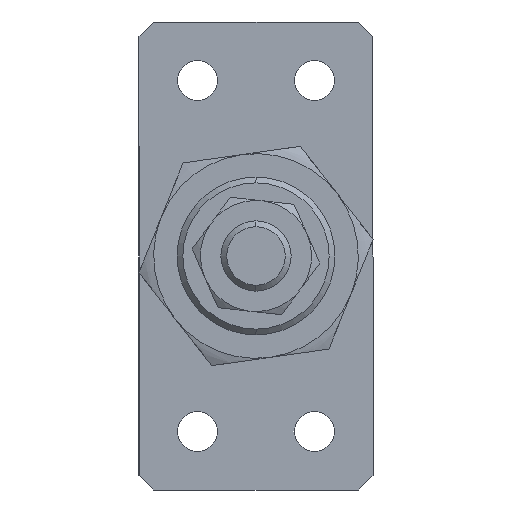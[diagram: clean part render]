
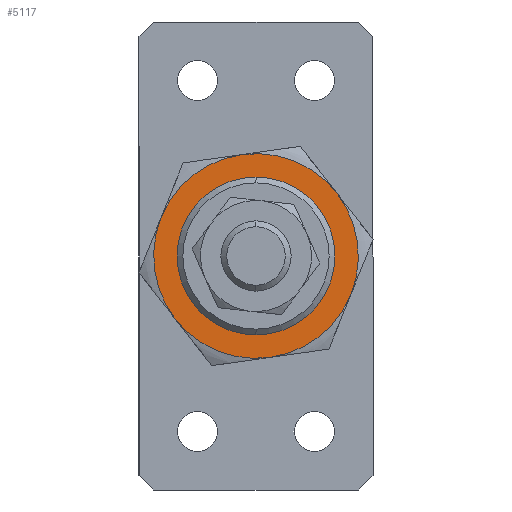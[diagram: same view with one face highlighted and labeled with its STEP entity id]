
A CAD part, left-side view. The second image highlights one B-rep face of the part: STEP entity #5117.
In plain terms, the highlighted planar face has unit normal (-1, 0, 0) as drawn and (0, 0, -1) by its records, which use the part's own axes.
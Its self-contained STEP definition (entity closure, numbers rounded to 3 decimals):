
#107 = DIRECTION ( 'NONE',  ( 0., 0., 1. ) ) ;
#116 = DIRECTION ( 'NONE',  ( 1., 0., 0. ) ) ;
#145 = DIRECTION ( 'NONE',  ( 1., 0., 0. ) ) ;
#271 = AXIS2_PLACEMENT_3D ( 'NONE', #3091, #5500, #2802 ) ;
#329 = VERTEX_POINT ( 'NONE', #2862 ) ;
#333 = ORIENTED_EDGE ( 'NONE', *, *, #5482, .F. ) ;
#394 = DIRECTION ( 'NONE',  ( 1., 0., 0. ) ) ;
#445 = CARTESIAN_POINT ( 'NONE',  ( 0., 0., -5. ) ) ;
#510 = VERTEX_POINT ( 'NONE', #5203 ) ;
#581 = EDGE_CURVE ( 'NONE', #3309, #1972, #639, .T. ) ;
#597 = DIRECTION ( 'NONE',  ( 1., 0., 0. ) ) ;
#639 = CIRCLE ( 'NONE', #1797, 17.5 ) ;
#721 = EDGE_CURVE ( 'NONE', #510, #4231, #4757, .T. ) ;
#831 = DIRECTION ( 'NONE',  ( 1., 0., 0. ) ) ;
#914 = DIRECTION ( 'NONE',  ( 1., 0., 0. ) ) ;
#973 = CARTESIAN_POINT ( 'NONE',  ( 17.5, 0., -5. ) ) ;
#1097 = CIRCLE ( 'NONE', #1670, 17.5 ) ;
#1131 = FACE_BOUND ( 'NONE', #5352, .T. ) ;
#1143 = DIRECTION ( 'NONE',  ( 0., 0., 1. ) ) ;
#1149 = DIRECTION ( 'NONE',  ( 1., 0., 0. ) ) ;
#1173 = DIRECTION ( 'NONE',  ( 0., 0., 1. ) ) ;
#1302 = VERTEX_POINT ( 'NONE', #3403 ) ;
#1332 = AXIS2_PLACEMENT_3D ( 'NONE', #2309, #3220, #597 ) ;
#1349 = ORIENTED_EDGE ( 'NONE', *, *, #4756, .F. ) ;
#1410 = DIRECTION ( 'NONE',  ( 1., 0., 0. ) ) ;
#1670 = AXIS2_PLACEMENT_3D ( 'NONE', #4062, #2517, #914 ) ;
#1716 = EDGE_CURVE ( 'NONE', #3109, #1302, #2927, .T. ) ;
#1732 = CARTESIAN_POINT ( 'NONE',  ( 0., 0., -5. ) ) ;
#1797 = AXIS2_PLACEMENT_3D ( 'NONE', #3610, #5308, #831 ) ;
#1925 = CIRCLE ( 'NONE', #2405, 12.5 ) ;
#1972 = VERTEX_POINT ( 'NONE', #2968 ) ;
#2309 = CARTESIAN_POINT ( 'NONE',  ( 0., 0., -5. ) ) ;
#2405 = AXIS2_PLACEMENT_3D ( 'NONE', #4834, #1143, #1410 ) ;
#2517 = DIRECTION ( 'NONE',  ( 0., 0., 1. ) ) ;
#2554 = DIRECTION ( 'NONE',  ( 0., 0., 1. ) ) ;
#2594 = EDGE_LOOP ( 'NONE', ( #4763, #333, #1349, #3400, #3652, #3650 ) ) ;
#2630 = AXIS2_PLACEMENT_3D ( 'NONE', #3601, #1173, #116 ) ;
#2686 = EDGE_CURVE ( 'NONE', #1972, #329, #4181, .T. ) ;
#2802 = DIRECTION ( 'NONE',  ( 1., 0., 0. ) ) ;
#2862 = CARTESIAN_POINT ( 'NONE',  ( -8.75, 15.155, -5. ) ) ;
#2927 = CIRCLE ( 'NONE', #4911, 12.5 ) ;
#2949 = PLANE ( 'NONE',  #1332 ) ;
#2968 = CARTESIAN_POINT ( 'NONE',  ( 8.75, 15.155, -5. ) ) ;
#3091 = CARTESIAN_POINT ( 'NONE',  ( 0., 0., -5. ) ) ;
#3107 = AXIS2_PLACEMENT_3D ( 'NONE', #1732, #2554, #145 ) ;
#3109 = VERTEX_POINT ( 'NONE', #3582 ) ;
#3116 = EDGE_CURVE ( 'NONE', #1302, #3109, #1925, .T. ) ;
#3220 = DIRECTION ( 'NONE',  ( 0., 0., 1. ) ) ;
#3300 = CARTESIAN_POINT ( 'NONE',  ( 8.75, -15.155, -5. ) ) ;
#3309 = VERTEX_POINT ( 'NONE', #973 ) ;
#3400 = ORIENTED_EDGE ( 'NONE', *, *, #721, .F. ) ;
#3403 = CARTESIAN_POINT ( 'NONE',  ( 12.5, 0., -5. ) ) ;
#3465 = CARTESIAN_POINT ( 'NONE',  ( 0., 0., -5. ) ) ;
#3582 = CARTESIAN_POINT ( 'NONE',  ( -12.5, 0., -5. ) ) ;
#3601 = CARTESIAN_POINT ( 'NONE',  ( 0., 0., -5. ) ) ;
#3610 = CARTESIAN_POINT ( 'NONE',  ( 0., 0., -5. ) ) ;
#3638 = CIRCLE ( 'NONE', #2630, 17.5 ) ;
#3650 = ORIENTED_EDGE ( 'NONE', *, *, #2686, .F. ) ;
#3652 = ORIENTED_EDGE ( 'NONE', *, *, #3844, .F. ) ;
#3810 = DIRECTION ( 'NONE',  ( 0., 0., 1. ) ) ;
#3819 = CARTESIAN_POINT ( 'NONE',  ( -8.75, -15.155, -5. ) ) ;
#3844 = EDGE_CURVE ( 'NONE', #329, #510, #1097, .T. ) ;
#3944 = ORIENTED_EDGE ( 'NONE', *, *, #1716, .T. ) ;
#3998 = CIRCLE ( 'NONE', #3107, 17.5 ) ;
#4062 = CARTESIAN_POINT ( 'NONE',  ( 0., 0., -5. ) ) ;
#4181 = CIRCLE ( 'NONE', #271, 17.5 ) ;
#4231 = VERTEX_POINT ( 'NONE', #3819 ) ;
#4285 = FACE_OUTER_BOUND ( 'NONE', #2594, .T. ) ;
#4370 = VERTEX_POINT ( 'NONE', #3300 ) ;
#4756 = EDGE_CURVE ( 'NONE', #4231, #4370, #3998, .T. ) ;
#4757 = CIRCLE ( 'NONE', #5140, 17.5 ) ;
#4763 = ORIENTED_EDGE ( 'NONE', *, *, #581, .F. ) ;
#4834 = CARTESIAN_POINT ( 'NONE',  ( 0., 0., -5. ) ) ;
#4836 = ORIENTED_EDGE ( 'NONE', *, *, #3116, .T. ) ;
#4911 = AXIS2_PLACEMENT_3D ( 'NONE', #445, #107, #1149 ) ;
#5117 = ADVANCED_FACE ( 'NONE', ( #1131, #4285 ), #2949, .F. ) ;
#5140 = AXIS2_PLACEMENT_3D ( 'NONE', #3465, #3810, #394 ) ;
#5203 = CARTESIAN_POINT ( 'NONE',  ( -17.5, 0., -5. ) ) ;
#5308 = DIRECTION ( 'NONE',  ( 0., 0., 1. ) ) ;
#5352 = EDGE_LOOP ( 'NONE', ( #4836, #3944 ) ) ;
#5482 = EDGE_CURVE ( 'NONE', #4370, #3309, #3638, .T. ) ;
#5500 = DIRECTION ( 'NONE',  ( 0., 0., 1. ) ) ;
